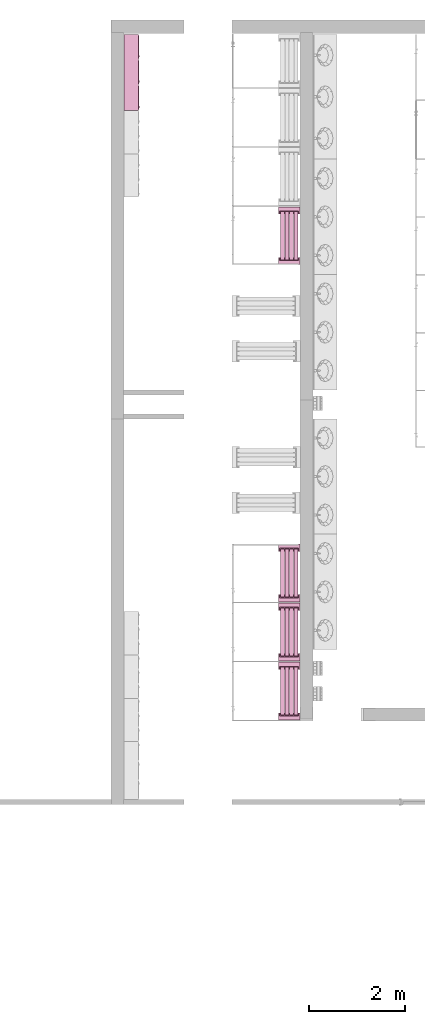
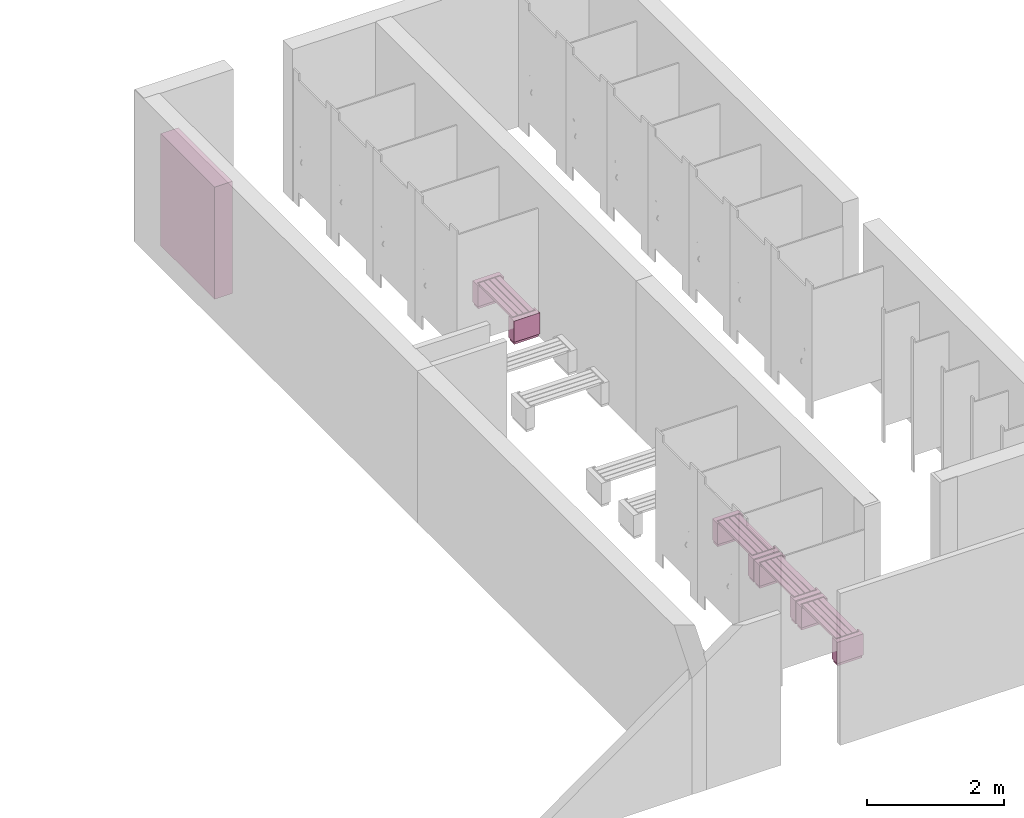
# One storey, part 19 of 22: 5 furnishings.
"""IFC2X3 building model written with IfcOpenShell, lengths in millimetres."""

from ifc_helpers import new_model, entity, si_unit, converted_unit, derived_unit, direction, frame, frame_2d, origin, origin_2d_with_axis, place, context, subcontext, project, spatial, polyline, rectangle, outline, extrude, source, transform, mapped, material, material_list, type_object, type_shapes, element, save


model = new_model("IFC2X3")

# Units and contexts
model_context = context("Model", 3, precision=0.01, world=origin(), true_north=direction((6.12303176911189e-17, 1.0)))
body_context = subcontext(model_context, "Body", "Model", "MODEL_VIEW")
ifc_project = project(units=[si_unit("LENGTHUNIT", "METRE", prefix="MILLI"), si_unit("AREAUNIT", "SQUARE_METRE"), si_unit("VOLUMEUNIT", "CUBIC_METRE"), converted_unit("PLANEANGLEUNIT", "DEGREE", entity("IfcRatioMeasure", 0.0174532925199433), si_unit("PLANEANGLEUNIT", "RADIAN"), dimensions=[0, 0, 0, 0, 0, 0, 0]), si_unit("MASSUNIT", "GRAM", prefix="KILO"), derived_unit("MASSDENSITYUNIT", [(si_unit("MASSUNIT", "GRAM", prefix="KILO"), 1), (si_unit("LENGTHUNIT", "METRE"), -3)]), si_unit("TIMEUNIT", "SECOND"), si_unit("FREQUENCYUNIT", "HERTZ"), si_unit("THERMODYNAMICTEMPERATUREUNIT", "DEGREE_CELSIUS"), derived_unit("THERMALTRANSMITTANCEUNIT", [(si_unit("MASSUNIT", "GRAM", prefix="KILO"), 1), (si_unit("THERMODYNAMICTEMPERATUREUNIT", "KELVIN"), -1), (si_unit("TIMEUNIT", "SECOND"), -3)]), derived_unit("VOLUMETRICFLOWRATEUNIT", [(si_unit("LENGTHUNIT", "METRE"), 3), (si_unit("TIMEUNIT", "SECOND"), -1)]), si_unit("ELECTRICCURRENTUNIT", "AMPERE"), si_unit("ELECTRICVOLTAGEUNIT", "VOLT"), si_unit("POWERUNIT", "WATT"), si_unit("FORCEUNIT", "NEWTON", prefix="KILO"), si_unit("ILLUMINANCEUNIT", "LUX"), si_unit("LUMINOUSFLUXUNIT", "LUMEN"), si_unit("LUMINOUSINTENSITYUNIT", "CANDELA"), derived_unit("USERDEFINED", [(si_unit("MASSUNIT", "GRAM", prefix="KILO"), -1), (si_unit("LENGTHUNIT", "METRE"), -2), (si_unit("TIMEUNIT", "SECOND"), 3), (si_unit("LUMINOUSFLUXUNIT", "LUMEN"), 1)]), derived_unit("LINEARVELOCITYUNIT", [(si_unit("LENGTHUNIT", "METRE"), 1), (si_unit("TIMEUNIT", "SECOND"), -1)]), si_unit("PRESSUREUNIT", "PASCAL"), derived_unit("USERDEFINED", [(si_unit("LENGTHUNIT", "METRE"), -2), (si_unit("MASSUNIT", "GRAM", prefix="KILO"), 1), (si_unit("TIMEUNIT", "SECOND"), -2)])], contexts=[model_context])

# Site, building, storey
site_placement = place(None, origin())
site = spatial("IfcSite", under=ifc_project, at=site_placement, Name="Default", CompositionType="ELEMENT")
building_placement = place(site_placement, origin())
building = spatial("IfcBuilding", under=site, at=building_placement, CompositionType="ELEMENT")
storey_placement = place(building_placement, frame((0.0, 0.0, -3000.0)))
storey = spatial("IfcBuildingStorey", under=building, at=storey_placement, Name="-2. Story", CompositionType="ELEMENT", Elevation=-3000.0)

# Furnishings
ifc_material_1 = material(Name="Wood - Pine Grained Horizontal")
ifc_material_2 = material(Name="Paint - Titanium White")
ifc_material_list_1 = material_list([ifc_material_1, ifc_material_2])
ifc_material_list_2 = material_list([ifc_material_1, ifc_material_2])
furniture_type_1 = type_object("IfcFurnitureType", Name="FU - 011", material=ifc_material_list_2)
shared_shape_1 = source(origin(), body_context, "Body", "SweptSolid", [
    extrude(rectangle(XDim=1000.00000000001, YDim=83.1575481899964, at=frame_2d((-4.32009983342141e-12, 8.66506866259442e-12), x_axis=(1.0, 0.0))), frame((111329.651806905, 76853.9483369, -2510.0), z_axis=(0.0, 0.0, 1.0), x_axis=(0.0, -1.0, 0.0)), (0.0, 0.0, 1.0), 40.0000000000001),
    extrude(rectangle(XDim=1000.00000000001, YDim=83.1575481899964, at=frame_2d((-4.32009983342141e-12, -8.66506866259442e-12), x_axis=(1.0, 0.0))), frame((111236.494258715, 76853.9483369, -2510.0), z_axis=(0.0, 0.0, 1.0), x_axis=(0.0, -1.0, 0.0)), (0.0, 0.0, 1.0), 40.0000000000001),
    extrude(rectangle(XDim=1000.00000000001, YDim=83.1575481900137, at=frame_2d((-4.32009983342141e-12, 0.0), x_axis=(1.0, 0.0))), frame((111143.336710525, 76853.9483369, -2510.0), z_axis=(0.0, 0.0, 1.0), x_axis=(0.0, -1.0, 0.0)), (0.0, 0.0, 1.0), 40.0000000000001),
    extrude(rectangle(XDim=1000.00000000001, YDim=83.1575481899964, at=frame_2d((-4.32009983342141e-12, -8.66506866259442e-12), x_axis=(1.0, 0.0))), frame((111050.179162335, 76853.9483369, -2510.0), z_axis=(0.0, 0.0, 1.0), x_axis=(0.0, -1.0, 0.0)), (0.0, 0.0, 1.0), 40.0000000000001),
    extrude(outline(polyline([(-221.315096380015, -96.2500000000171), (221.31509637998, -96.2500000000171), (221.31509637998, 53.7499999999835), (196.315096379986, 53.7499999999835), (196.315096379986, -11.2500000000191), (-196.315096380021, -11.2500000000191), (-196.315096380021, 53.7499999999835), (-221.315096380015, 53.7499999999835), (-221.315096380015, -96.2500000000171)])), frame((111189.91548462, 77357.6983369, -2510.0), z_axis=(0.0, 0.0, 1.0), x_axis=(-1.0, 0.0, 0.0)), (0.0, 0.0, 1.0), 40.0000000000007),
    extrude(rectangle(XDim=442.630192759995, YDim=150.000000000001, at=origin_2d_with_axis()), frame((111189.91548462, 77378.9483369, -2850.0), z_axis=(0.0, 0.0, 1.0), x_axis=(-1.0, 0.0, 0.0)), (0.0, 0.0, 1.0), 340.0),
    extrude(rectangle(XDim=412.630192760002, YDim=119.999999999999, at=frame_2d((0.0, 4.33075797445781e-12), x_axis=(1.0, 0.0))), frame((111189.91548462, 77378.9483369, -2900.0), z_axis=(0.0, 0.0, 1.0), x_axis=(-1.0, 0.0, 0.0)), (0.0, 0.0, 1.0), 50.0),
    extrude(outline(polyline([(-53.7499999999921, -221.315096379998), (96.2500000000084, -221.315096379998), (96.2500000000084, 221.315096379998), (-53.7499999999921, 221.315096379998), (-53.7499999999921, 196.315096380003), (11.2500000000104, 196.315096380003), (11.2500000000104, -196.315096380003), (-53.7499999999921, -196.315096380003), (-53.7499999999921, -221.315096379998)])), frame((111189.91548462, 76350.1983369, -2510.0), z_axis=(0.0, 0.0, 1.0), x_axis=(0.0, -1.0, 0.0)), (0.0, 0.0, 1.0), 40.0000000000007),
    extrude(rectangle(XDim=150.000000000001, YDim=442.630192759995, at=origin_2d_with_axis()), frame((111189.91548462, 76328.9483369, -2850.0), z_axis=(0.0, 0.0, 1.0), x_axis=(0.0, -1.0, 0.0)), (0.0, 0.0, 1.0), 340.0),
    extrude(rectangle(XDim=119.999999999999, YDim=412.630192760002, at=frame_2d((-4.33075797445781e-12, 0.0), x_axis=(1.0, 0.0))), frame((111189.91548462, 76328.9483369, -2900.0), z_axis=(0.0, 0.0, 1.0), x_axis=(0.0, -1.0, 0.0)), (0.0, 0.0, 1.0), 50.0),
])
type_shapes(furniture_type_1, [shared_shape_1])
furnishing_1_placement = place(storey_placement, frame((0.0, 0.0, 3000.0)))
element("IfcFurnishingElement", 1, at=furnishing_1_placement, inside=storey, type_object=furniture_type_1, material=ifc_material_list_1, Name="FU - 011 1590789:FU - 011 1590789", ObjectType="FU - 011 1590789:FU - 011 1590789", context=body_context, shape_type="MappedRepresentation", body=[
    mapped(shared_shape_1, transform((0.0, 0.0, 0.0), scale=1.0)),
])
ifc_material_list_3 = material_list([ifc_material_1, ifc_material_2])
ifc_material_list_4 = material_list([ifc_material_1, ifc_material_2])
furniture_type_2 = type_object("IfcFurnitureType", Name="FU - 011", material=ifc_material_list_4)
shared_shape_2 = source(origin(), body_context, "Body", "SweptSolid", [
    extrude(rectangle(XDim=1000.00000000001, YDim=83.1575481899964, at=frame_2d((-4.32009983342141e-12, 8.66506866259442e-12), x_axis=(1.0, 0.0))), frame((111329.651806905, 78078.9483369, -2510.0), z_axis=(0.0, 0.0, 1.0), x_axis=(0.0, -1.0, 0.0)), (0.0, 0.0, 1.0), 40.0000000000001),
    extrude(rectangle(XDim=1000.00000000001, YDim=83.1575481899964, at=frame_2d((-4.32009983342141e-12, -8.66506866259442e-12), x_axis=(1.0, 0.0))), frame((111236.494258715, 78078.9483369, -2510.0), z_axis=(0.0, 0.0, 1.0), x_axis=(0.0, -1.0, 0.0)), (0.0, 0.0, 1.0), 40.0000000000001),
    extrude(rectangle(XDim=1000.00000000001, YDim=83.1575481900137, at=frame_2d((-4.32009983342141e-12, 0.0), x_axis=(1.0, 0.0))), frame((111143.336710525, 78078.9483369, -2510.0), z_axis=(0.0, 0.0, 1.0), x_axis=(0.0, -1.0, 0.0)), (0.0, 0.0, 1.0), 40.0000000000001),
    extrude(rectangle(XDim=1000.00000000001, YDim=83.1575481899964, at=frame_2d((-4.32009983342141e-12, -8.66506866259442e-12), x_axis=(1.0, 0.0))), frame((111050.179162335, 78078.9483369, -2510.0), z_axis=(0.0, 0.0, 1.0), x_axis=(0.0, -1.0, 0.0)), (0.0, 0.0, 1.0), 40.0000000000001),
    extrude(outline(polyline([(-221.315096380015, -96.2499999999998), (221.31509637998, -96.2499999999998), (221.31509637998, 53.7500000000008), (196.315096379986, 53.7500000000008), (196.315096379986, -11.2500000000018), (-196.315096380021, -11.2500000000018), (-196.315096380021, 53.7500000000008), (-221.315096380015, 53.7500000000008), (-221.315096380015, -96.2499999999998)])), frame((111189.91548462, 78582.6983369, -2510.0), z_axis=(0.0, 0.0, 1.0), x_axis=(-1.0, 0.0, 0.0)), (0.0, 0.0, 1.0), 40.0000000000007),
    extrude(rectangle(XDim=442.630192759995, YDim=150.000000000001, at=origin_2d_with_axis()), frame((111189.91548462, 78603.9483369, -2850.0), z_axis=(0.0, 0.0, 1.0), x_axis=(-1.0, 0.0, 0.0)), (0.0, 0.0, 1.0), 340.0),
    extrude(rectangle(XDim=412.630192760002, YDim=120.000000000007, at=origin_2d_with_axis()), frame((111189.91548462, 78603.9483369, -2900.0), z_axis=(0.0, 0.0, 1.0), x_axis=(-1.0, 0.0, 0.0)), (0.0, 0.0, 1.0), 50.0),
    extrude(outline(polyline([(-53.7500000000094, -221.315096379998), (96.2499999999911, -221.315096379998), (96.2499999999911, 221.315096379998), (-53.7500000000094, 221.315096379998), (-53.7500000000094, 196.315096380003), (11.2499999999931, 196.315096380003), (11.2499999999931, -196.315096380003), (-53.7500000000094, -196.315096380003), (-53.7500000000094, -221.315096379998)])), frame((111189.91548462, 77575.1983369, -2510.0), z_axis=(0.0, 0.0, 1.0), x_axis=(0.0, -1.0, 0.0)), (0.0, 0.0, 1.0), 40.0000000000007),
    extrude(rectangle(XDim=150.000000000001, YDim=442.630192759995, at=origin_2d_with_axis()), frame((111189.91548462, 77553.9483369, -2850.0), z_axis=(0.0, 0.0, 1.0), x_axis=(0.0, -1.0, 0.0)), (0.0, 0.0, 1.0), 340.0),
    extrude(rectangle(XDim=119.999999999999, YDim=412.630192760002, at=frame_2d((-4.33075797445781e-12, 0.0), x_axis=(1.0, 0.0))), frame((111189.91548462, 77553.9483369, -2900.0), z_axis=(0.0, 0.0, 1.0), x_axis=(0.0, -1.0, 0.0)), (0.0, 0.0, 1.0), 50.0),
])
type_shapes(furniture_type_2, [shared_shape_2])
furnishing_2_placement = place(storey_placement, frame((0.0, 0.0, 3000.0)))
element("IfcFurnishingElement", 2, at=furnishing_2_placement, inside=storey, type_object=furniture_type_2, material=ifc_material_list_3, Name="FU - 011 1591476:FU - 011 1591476", ObjectType="FU - 011 1591476:FU - 011 1591476", context=body_context, shape_type="MappedRepresentation", body=[
    mapped(shared_shape_2, transform((0.0, 0.0, 0.0), scale=1.0)),
])
ifc_material_list_5 = material_list([ifc_material_1, ifc_material_2])
ifc_material_list_6 = material_list([ifc_material_1, ifc_material_2])
furniture_type_3 = type_object("IfcFurnitureType", Name="FU - 011", material=ifc_material_list_6)
shared_shape_3 = source(origin(), body_context, "Body", "SweptSolid", [
    extrude(rectangle(XDim=999.999999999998, YDim=83.1575481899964, at=frame_2d((-8.66862137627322e-12, 8.66506866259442e-12), x_axis=(1.0, 0.0))), frame((111329.651806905, 79303.9483369, -2510.0), z_axis=(0.0, 0.0, 1.0), x_axis=(0.0, -1.0, 0.0)), (0.0, 0.0, 1.0), 40.0000000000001),
    extrude(rectangle(XDim=999.999999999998, YDim=83.1575481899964, at=frame_2d((-8.66862137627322e-12, -8.66506866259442e-12), x_axis=(1.0, 0.0))), frame((111236.494258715, 79303.9483369, -2510.0), z_axis=(0.0, 0.0, 1.0), x_axis=(0.0, -1.0, 0.0)), (0.0, 0.0, 1.0), 40.0000000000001),
    extrude(rectangle(XDim=999.999999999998, YDim=83.1575481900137, at=frame_2d((-8.66862137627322e-12, 0.0), x_axis=(1.0, 0.0))), frame((111143.336710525, 79303.9483369, -2510.0), z_axis=(0.0, 0.0, 1.0), x_axis=(0.0, -1.0, 0.0)), (0.0, 0.0, 1.0), 40.0000000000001),
    extrude(rectangle(XDim=999.999999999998, YDim=83.1575481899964, at=frame_2d((-8.66862137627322e-12, -8.66506866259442e-12), x_axis=(1.0, 0.0))), frame((111050.179162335, 79303.9483369, -2510.0), z_axis=(0.0, 0.0, 1.0), x_axis=(0.0, -1.0, 0.0)), (0.0, 0.0, 1.0), 40.0000000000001),
    extrude(outline(polyline([(-221.315096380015, -96.2499999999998), (221.31509637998, -96.2499999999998), (221.31509637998, 53.7500000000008), (196.315096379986, 53.7500000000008), (196.315096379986, -11.2500000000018), (-196.315096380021, -11.2500000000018), (-196.315096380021, 53.7500000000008), (-221.315096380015, 53.7500000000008), (-221.315096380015, -96.2499999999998)])), frame((111189.91548462, 79807.6983369, -2510.0), z_axis=(0.0, 0.0, 1.0), x_axis=(-1.0, 0.0, 0.0)), (0.0, 0.0, 1.0), 40.0000000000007),
    extrude(rectangle(XDim=442.630192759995, YDim=150.000000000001, at=origin_2d_with_axis()), frame((111189.91548462, 79828.9483369, -2850.0), z_axis=(0.0, 0.0, 1.0), x_axis=(-1.0, 0.0, 0.0)), (0.0, 0.0, 1.0), 340.0),
    extrude(rectangle(XDim=412.630192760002, YDim=120.000000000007, at=origin_2d_with_axis()), frame((111189.91548462, 79828.9483369, -2900.0), z_axis=(0.0, 0.0, 1.0), x_axis=(-1.0, 0.0, 0.0)), (0.0, 0.0, 1.0), 50.0),
    extrude(outline(polyline([(-53.7500000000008, -221.315096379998), (96.2499999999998, -221.315096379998), (96.2499999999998, 221.315096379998), (-53.7500000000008, 221.315096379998), (-53.7500000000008, 196.315096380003), (11.2499999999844, 196.315096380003), (11.2499999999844, -196.315096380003), (-53.7500000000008, -196.315096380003), (-53.7500000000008, -221.315096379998)])), frame((111189.91548462, 78800.1983369, -2510.0), z_axis=(0.0, 0.0, 1.0), x_axis=(0.0, -1.0, 0.0)), (0.0, 0.0, 1.0), 40.0000000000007),
    extrude(rectangle(XDim=150.000000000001, YDim=442.630192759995, at=origin_2d_with_axis()), frame((111189.91548462, 78778.9483369, -2850.0), z_axis=(0.0, 0.0, 1.0), x_axis=(0.0, -1.0, 0.0)), (0.0, 0.0, 1.0), 340.0),
    extrude(rectangle(XDim=119.99999999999, YDim=412.630192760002, at=frame_2d((-8.66506866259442e-12, 0.0), x_axis=(1.0, 0.0))), frame((111189.91548462, 78778.9483369, -2900.0), z_axis=(0.0, 0.0, 1.0), x_axis=(0.0, -1.0, 0.0)), (0.0, 0.0, 1.0), 50.0),
])
type_shapes(furniture_type_3, [shared_shape_3])
furnishing_3_placement = place(storey_placement, frame((0.0, 0.0, 3000.0)))
element("IfcFurnishingElement", 3, at=furnishing_3_placement, inside=storey, type_object=furniture_type_3, material=ifc_material_list_5, Name="FU - 011 1591865:FU - 011 1591865", ObjectType="FU - 011 1591865:FU - 011 1591865", context=body_context, shape_type="MappedRepresentation", body=[
    mapped(shared_shape_3, transform((0.0, 0.0, 0.0), scale=1.0)),
])
ifc_material_list_7 = material_list([ifc_material_1, ifc_material_2])
ifc_material_list_8 = material_list([ifc_material_1, ifc_material_2])
furniture_type_4 = type_object("IfcFurnitureType", Name="FU - 011", material=ifc_material_list_8)
shared_shape_4 = source(origin(), body_context, "Body", "SweptSolid", [
    extrude(rectangle(XDim=83.1575481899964, YDim=999.999999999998, at=frame_2d((-8.66506866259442e-12, -8.66862137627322e-12), x_axis=(1.0, 0.0))), frame((111329.651806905, 86303.9483369, -2510.0), z_axis=(0.0, 0.0, 1.0), x_axis=(-1.0, 0.0, 0.0)), (0.0, 0.0, 1.0), 40.0000000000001),
    extrude(rectangle(XDim=83.1575481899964, YDim=999.999999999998, at=frame_2d((8.66506866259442e-12, -8.66862137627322e-12), x_axis=(1.0, 0.0))), frame((111236.494258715, 86303.9483369, -2510.0), z_axis=(0.0, 0.0, 1.0), x_axis=(-1.0, 0.0, 0.0)), (0.0, 0.0, 1.0), 40.0000000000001),
    extrude(rectangle(XDim=83.1575481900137, YDim=999.999999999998, at=frame_2d((0.0, -8.66862137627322e-12), x_axis=(1.0, 0.0))), frame((111143.336710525, 86303.9483369, -2510.0), z_axis=(0.0, 0.0, 1.0), x_axis=(-1.0, 0.0, 0.0)), (0.0, 0.0, 1.0), 40.0000000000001),
    extrude(rectangle(XDim=83.1575481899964, YDim=999.999999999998, at=frame_2d((-8.66506866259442e-12, -8.66862137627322e-12), x_axis=(1.0, 0.0))), frame((111050.179162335, 86303.9483369, -2510.0), z_axis=(0.0, 0.0, 1.0), x_axis=(-1.0, 0.0, 0.0)), (0.0, 0.0, 1.0), 40.0000000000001),
    extrude(outline(polyline([(-53.7500000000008, -221.315096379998), (96.2499999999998, -221.315096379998), (96.2499999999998, 221.315096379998), (-53.7500000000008, 221.315096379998), (-53.7500000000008, 196.315096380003), (11.2500000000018, 196.315096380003), (11.2500000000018, -196.315096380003), (-53.7500000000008, -196.315096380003), (-53.7500000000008, -221.315096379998)])), frame((111189.91548462, 85800.1983369, -2510.0), z_axis=(0.0, 0.0, 1.0), x_axis=(0.0, -1.0, 0.0)), (0.0, 0.0, 1.0), 40.0000000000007),
    extrude(rectangle(XDim=150.000000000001, YDim=442.630192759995, at=origin_2d_with_axis()), frame((111189.91548462, 85778.9483369, -2850.0), z_axis=(0.0, 0.0, 1.0), x_axis=(0.0, -1.0, 0.0)), (0.0, 0.0, 1.0), 340.0),
    extrude(rectangle(XDim=119.99999999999, YDim=412.630192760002, at=frame_2d((-8.66506866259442e-12, 0.0), x_axis=(1.0, 0.0))), frame((111189.91548462, 85778.9483369, -2900.0), z_axis=(0.0, 0.0, 1.0), x_axis=(0.0, -1.0, 0.0)), (0.0, 0.0, 1.0), 50.0),
    extrude(outline(polyline([(-221.315096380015, -96.2499999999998), (221.31509637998, -96.2499999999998), (221.31509637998, 53.7500000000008), (196.315096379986, 53.7500000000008), (196.315096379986, -11.2500000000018), (-196.315096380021, -11.2500000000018), (-196.315096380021, 53.7500000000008), (-221.315096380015, 53.7500000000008), (-221.315096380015, -96.2499999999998)])), frame((111189.91548462, 86807.6983369, -2510.0), z_axis=(0.0, 0.0, 1.0), x_axis=(-1.0, 0.0, 0.0)), (0.0, 0.0, 1.0), 40.0000000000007),
    extrude(rectangle(XDim=442.630192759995, YDim=150.000000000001, at=origin_2d_with_axis()), frame((111189.91548462, 86828.9483369, -2850.0), z_axis=(0.0, 0.0, 1.0), x_axis=(-1.0, 0.0, 0.0)), (0.0, 0.0, 1.0), 340.0),
    extrude(rectangle(XDim=412.630192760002, YDim=120.000000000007, at=origin_2d_with_axis()), frame((111189.91548462, 86828.9483369, -2900.0), z_axis=(0.0, 0.0, 1.0), x_axis=(-1.0, 0.0, 0.0)), (0.0, 0.0, 1.0), 50.0),
])
type_shapes(furniture_type_4, [shared_shape_4])
furnishing_4_placement = place(storey_placement, frame((0.0, 0.0, 3000.0)))
element("IfcFurnishingElement", 4, at=furnishing_4_placement, inside=storey, type_object=furniture_type_4, material=ifc_material_list_7, Name="FU - 011 1605190:FU - 011 1605190", ObjectType="FU - 011 1605190:FU - 011 1605190", context=body_context, shape_type="MappedRepresentation", body=[
    mapped(shared_shape_4, transform((0.0, 0.0, 0.0), scale=1.0)),
])
ifc_material_3 = material(Name="Metal - Stainless Steel")
ifc_material_4 = material(Name="Paint - Glossy White")
ifc_material_5 = material(Name="Paint - Cobalt Blue")
ifc_material_list_9 = material_list([ifc_material_3, ifc_material_4, ifc_material_5])
ifc_material_list_10 = material_list([ifc_material_3, ifc_material_4, ifc_material_5])
furniture_type_5 = type_object("IfcFurnitureType", Name="FU - 010", material=ifc_material_list_10)
shared_shape_5 = source(origin(), body_context, "Body", "SweptSolid", [
    extrude(outline(polyline([(-7.65366865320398, -18.477590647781), (7.65366863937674, -18.477590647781), (18.4775906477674, -7.65366865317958), (18.4775906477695, 7.65366863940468), (7.65366865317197, 18.4775906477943), (-7.65366863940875, 18.4775906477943), (-18.4775906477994, 7.65366865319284), (-18.4775906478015, -7.65366863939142), (-7.65366865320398, -18.477590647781)])), frame((108074.18836, 90026.79658138, -1400.0), z_axis=(1.0, 0.0, 0.0), x_axis=(0.0, 0.92387953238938, 0.382683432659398)), (0.0, 0.0, 1.0), 10.0000000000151),
    extrude(rectangle(XDim=75.0000000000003, YDim=4.99999999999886, at=frame_2d((0.0, 8.66284821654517e-12), x_axis=(1.0, 0.0))), frame((108076.68836, 90220.0086425, -1000.0), z_axis=(0.0, 0.0, 1.0), x_axis=(0.0, 1.0, 0.0)), (0.0, 0.0, 1.0), 50.0),
    extrude(rectangle(XDim=486.424122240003, YDim=9.99999999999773, at=frame_2d((0.0, 1.73256964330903e-11), x_axis=(1.0, 0.0))), frame((108069.18836, 90220.0086425, -1880.0), z_axis=(0.0, 0.0, 1.0), x_axis=(0.0, -1.0, 0.0)), (0.0, 0.0, 1.0), 960.0),
    extrude(rectangle(XDim=526.424122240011, YDim=19.9999999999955, at=frame_2d((8.64019966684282e-12, 0.0), x_axis=(1.0, 0.0))), frame((107779.18836, 90220.0086425, -1900.0), z_axis=(0.0, 0.0, 1.0), x_axis=(0.0, 1.0, 0.0)), (0.0, 0.0, 1.0), 1000.0),
    extrude(outline(polyline([(-500.0, -263.212061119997), (500.0, -263.212061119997), (500.0, 263.212061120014), (-500.0, 263.212061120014), (-500.0, -263.212061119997)]), holes=[polyline([(480.0, 243.212061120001), (480.0, -243.212061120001), (-480.0, -243.212061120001), (-480.0, 243.212061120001), (480.0, 243.212061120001)])]), frame((107789.18836, 90220.0086425, -1400.0), z_axis=(1.0, 0.0, 0.0), x_axis=(0.0, 0.0, -1.0)), (0.0, 0.0, 1.0), 280.000000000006),
    extrude(outline(polyline([(-7.65366865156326, -18.4775906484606), (7.65366864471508, -18.4775906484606), (18.4775906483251, -7.65366865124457), (18.4775906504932, 7.65366863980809), (7.65366865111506, 18.4775906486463), (-7.65366864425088, 18.4775906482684), (-18.4775906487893, 7.65366865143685), (-18.477590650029, -7.65366864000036), (-7.65366865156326, -18.4775906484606)])), frame((108074.18836, 89500.3724591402, -1400.0), z_axis=(1.0, 0.0, 0.0), x_axis=(0.0, 0.923879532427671, 0.382683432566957)), (0.0, 0.0, 1.0), 10.0000000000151),
    extrude(rectangle(XDim=75.0000000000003, YDim=4.99999999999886, at=frame_2d((0.0, 8.66284821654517e-12), x_axis=(1.0, 0.0))), frame((108076.68836, 89693.584520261, -1000.0), z_axis=(0.0, 0.0, 1.0), x_axis=(0.0, 1.0, 0.0)), (0.0, 0.0, 1.0), 50.0),
    extrude(rectangle(XDim=486.424122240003, YDim=9.99999999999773, at=frame_2d((0.0, 1.73256964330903e-11), x_axis=(1.0, 0.0))), frame((108069.18836, 89693.58452026, -1880.0), z_axis=(0.0, 0.0, 1.0), x_axis=(0.0, -1.0, 0.0)), (0.0, 0.0, 1.0), 960.0),
    extrude(rectangle(XDim=526.424122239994, YDim=19.9999999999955, at=origin_2d_with_axis()), frame((107779.18836, 89693.58452026, -1900.0), z_axis=(0.0, 0.0, 1.0), x_axis=(0.0, 1.0, 0.0)), (0.0, 0.0, 1.0), 1000.0),
    extrude(outline(polyline([(-500.0, -263.212061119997), (500.0, -263.212061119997), (500.0, 263.212061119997), (-500.0, 263.212061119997), (-500.0, -263.212061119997)]), holes=[polyline([(480.0, 243.212061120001), (480.0, -243.212061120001), (-480.0, -243.212061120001), (-480.0, 243.212061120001), (480.0, 243.212061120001)])]), frame((107789.18836, 89693.58452026, -1400.0), z_axis=(1.0, 0.0, 0.0), x_axis=(0.0, 0.0, -1.0)), (0.0, 0.0, 1.0), 280.000000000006),
    extrude(outline(polyline([(-7.65366865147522, -18.4775906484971), (7.653668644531, -18.4775906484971), (18.4775906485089, -7.65366865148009), (18.4775906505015, 7.65366863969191), (7.65366865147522, 18.4775906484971), (-7.65366864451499, 18.4775906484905), (-18.4775906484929, 7.65366865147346), (-18.4775906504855, -7.65366863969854), (-7.65366865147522, -18.4775906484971)])), frame((108074.18836, 88973.9483369, -1400.0), z_axis=(1.0, 0.0, 0.0), x_axis=(0.0, 0.923879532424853, 0.38268343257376)), (0.0, 0.0, 1.0), 10.0000000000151),
    extrude(rectangle(XDim=75.0000000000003, YDim=4.99999999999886, at=frame_2d((0.0, 8.66284821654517e-12), x_axis=(1.0, 0.0))), frame((108076.68836, 89167.16039802, -1000.0), z_axis=(0.0, 0.0, 1.0), x_axis=(0.0, 1.0, 0.0)), (0.0, 0.0, 1.0), 50.0),
    extrude(rectangle(XDim=486.424122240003, YDim=9.99999999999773, at=frame_2d((0.0, 1.73256964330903e-11), x_axis=(1.0, 0.0))), frame((108069.18836, 89167.16039802, -1880.0), z_axis=(0.0, 0.0, 1.0), x_axis=(0.0, -1.0, 0.0)), (0.0, 0.0, 1.0), 960.0),
    extrude(rectangle(XDim=526.424122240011, YDim=19.9999999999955, at=frame_2d((-8.64019966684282e-12, 0.0), x_axis=(1.0, 0.0))), frame((107779.18836, 89167.16039802, -1900.0), z_axis=(0.0, 0.0, 1.0), x_axis=(0.0, 1.0, 0.0)), (0.0, 0.0, 1.0), 1000.0),
    extrude(outline(polyline([(-500.0, -263.212061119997), (500.0, -263.212061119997), (500.0, 263.212061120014), (-500.0, 263.212061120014), (-500.0, -263.212061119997)]), holes=[polyline([(480.0, 243.212061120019), (480.0, -243.212061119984), (-480.0, -243.212061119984), (-480.0, 243.212061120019), (480.0, 243.212061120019)])]), frame((107789.18836, 89167.16039802, -1400.0), z_axis=(1.0, 0.0, 0.0), x_axis=(0.0, 0.0, -1.0)), (0.0, 0.0, 1.0), 280.000000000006),
    extrude(outline(polyline([(-7.65366864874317, -18.4775906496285), (7.65366864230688, -18.4775906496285), (18.4775906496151, -7.65366864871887), (18.4775906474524, 7.65366864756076), (7.65366864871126, 18.477590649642), (-7.65366864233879, 18.477590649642), (-18.4775906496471, 7.65366864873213), (-18.4775906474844, -7.65366864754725), (-7.65366864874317, -18.4775906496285)])), frame((108074.18836, 90026.79658138, -2400.0), z_axis=(1.0, 0.0, 0.0), x_axis=(0.0, 0.923879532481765, 0.382683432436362)), (0.0, 0.0, 1.0), 10.0000000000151),
    extrude(rectangle(XDim=75.0000000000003, YDim=4.99999999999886, at=frame_2d((0.0, 8.66284821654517e-12), x_axis=(1.0, 0.0))), frame((108076.68836, 90220.0086425, -2000.0), z_axis=(0.0, 0.0, 1.0), x_axis=(0.0, 1.0, 0.0)), (0.0, 0.0, 1.0), 50.0),
    extrude(rectangle(XDim=486.424122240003, YDim=9.99999999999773, at=frame_2d((0.0, 1.73256964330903e-11), x_axis=(1.0, 0.0))), frame((108069.18836, 90220.0086425, -2880.0), z_axis=(0.0, 0.0, 1.0), x_axis=(0.0, -1.0, 0.0)), (0.0, 0.0, 1.0), 960.0),
    extrude(rectangle(XDim=526.424122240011, YDim=19.9999999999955, at=frame_2d((8.64019966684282e-12, 0.0), x_axis=(1.0, 0.0))), frame((107779.18836, 90220.0086425, -2900.0), z_axis=(0.0, 0.0, 1.0), x_axis=(0.0, 1.0, 0.0)), (0.0, 0.0, 1.0), 1000.0),
    extrude(outline(polyline([(-500.0, -263.212061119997), (500.0, -263.212061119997), (500.0, 263.212061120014), (-500.0, 263.212061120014), (-500.0, -263.212061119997)]), holes=[polyline([(480.0, 243.212061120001), (480.0, -243.212061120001), (-480.0, -243.212061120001), (-480.0, 243.212061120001), (480.0, 243.212061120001)])]), frame((107789.18836, 90220.0086425, -2400.0), z_axis=(1.0, 0.0, 0.0), x_axis=(0.0, 0.0, -1.0)), (0.0, 0.0, 1.0), 280.000000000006),
    extrude(outline(polyline([(-7.65366864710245, -18.4775906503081), (7.65366864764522, -18.4775906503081), (18.4775906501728, -7.65366864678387), (18.4775906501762, 7.65366864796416), (7.65366864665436, 18.477590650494), (-7.65366864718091, 18.477590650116), (-18.477590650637, 7.65366864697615), (-18.4775906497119, -7.65366864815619), (-7.65366864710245, -18.4775906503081)])), frame((108074.18836, 89500.3724591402, -2400.0), z_axis=(1.0, 0.0, 0.0), x_axis=(0.0, 0.923879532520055, 0.382683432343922)), (0.0, 0.0, 1.0), 10.0000000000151),
    extrude(rectangle(XDim=75.0000000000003, YDim=4.99999999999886, at=frame_2d((0.0, 8.66284821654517e-12), x_axis=(1.0, 0.0))), frame((108076.68836, 89693.584520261, -2000.0), z_axis=(0.0, 0.0, 1.0), x_axis=(0.0, 1.0, 0.0)), (0.0, 0.0, 1.0), 50.0),
    extrude(rectangle(XDim=486.424122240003, YDim=9.99999999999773, at=frame_2d((0.0, 1.73256964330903e-11), x_axis=(1.0, 0.0))), frame((108069.18836, 89693.58452026, -2880.0), z_axis=(0.0, 0.0, 1.0), x_axis=(0.0, -1.0, 0.0)), (0.0, 0.0, 1.0), 960.0),
    extrude(rectangle(XDim=526.424122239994, YDim=19.9999999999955, at=origin_2d_with_axis()), frame((107779.18836, 89693.58452026, -2900.0), z_axis=(0.0, 0.0, 1.0), x_axis=(0.0, 1.0, 0.0)), (0.0, 0.0, 1.0), 1000.0),
    extrude(outline(polyline([(-500.0, -263.212061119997), (500.0, -263.212061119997), (500.0, 263.212061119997), (-500.0, 263.212061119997), (-500.0, -263.212061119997)]), holes=[polyline([(480.0, 243.212061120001), (480.0, -243.212061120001), (-480.0, -243.212061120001), (-480.0, 243.212061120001), (480.0, 243.212061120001)])]), frame((107789.18836, 89693.58452026, -2400.0), z_axis=(1.0, 0.0, 0.0), x_axis=(0.0, 0.0, -1.0)), (0.0, 0.0, 1.0), 280.000000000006),
    extrude(outline(polyline([(-7.65366864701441, -18.4775906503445), (7.65366864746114, -18.4775906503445), (18.4775906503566, -7.65366864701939), (18.4775906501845, 7.65366864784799), (7.65366864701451, 18.4775906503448), (-7.65366864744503, 18.4775906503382), (-18.4775906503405, 7.65366864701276), (-18.4775906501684, -7.65366864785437), (-7.65366864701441, -18.4775906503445)])), frame((108074.18836, 88973.9483369, -2400.0), z_axis=(1.0, 0.0, 0.0), x_axis=(0.0, 0.923879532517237, 0.382683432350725)), (0.0, 0.0, 1.0), 10.0000000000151),
    extrude(rectangle(XDim=75.0000000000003, YDim=4.99999999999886, at=frame_2d((0.0, 8.66284821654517e-12), x_axis=(1.0, 0.0))), frame((108076.68836, 89167.16039802, -2000.0), z_axis=(0.0, 0.0, 1.0), x_axis=(0.0, 1.0, 0.0)), (0.0, 0.0, 1.0), 50.0),
    extrude(rectangle(XDim=486.424122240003, YDim=9.99999999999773, at=frame_2d((0.0, 1.73256964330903e-11), x_axis=(1.0, 0.0))), frame((108069.18836, 89167.16039802, -2880.0), z_axis=(0.0, 0.0, 1.0), x_axis=(0.0, -1.0, 0.0)), (0.0, 0.0, 1.0), 960.0),
    extrude(rectangle(XDim=526.424122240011, YDim=19.9999999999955, at=frame_2d((-8.64019966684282e-12, 0.0), x_axis=(1.0, 0.0))), frame((107779.18836, 89167.16039802, -2900.0), z_axis=(0.0, 0.0, 1.0), x_axis=(0.0, 1.0, 0.0)), (0.0, 0.0, 1.0), 1000.0),
    extrude(outline(polyline([(-500.0, -263.212061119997), (500.0, -263.212061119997), (500.0, 263.212061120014), (-500.0, 263.212061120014), (-500.0, -263.212061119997)]), holes=[polyline([(480.0, 243.212061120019), (480.0, -243.212061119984), (-480.0, -243.212061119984), (-480.0, 243.212061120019), (480.0, 243.212061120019)])]), frame((107789.18836, 89167.16039802, -2400.0), z_axis=(1.0, 0.0, 0.0), x_axis=(0.0, 0.0, -1.0)), (0.0, 0.0, 1.0), 280.000000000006),
])
type_shapes(furniture_type_5, [shared_shape_5])
furnishing_5_placement = place(storey_placement, frame((0.0, 0.0, 3000.0)))
element("IfcFurnishingElement", 5, at=furnishing_5_placement, inside=storey, type_object=furniture_type_5, material=ifc_material_list_9, Name="FU - 010 1607552:FU - 010 1607552", ObjectType="FU - 010 1607552:FU - 010 1607552", context=body_context, shape_type="MappedRepresentation", body=[
    mapped(shared_shape_5, transform((0.0, 0.0, 0.0), scale=1.0)),
])

save(model, "model.ifc")
